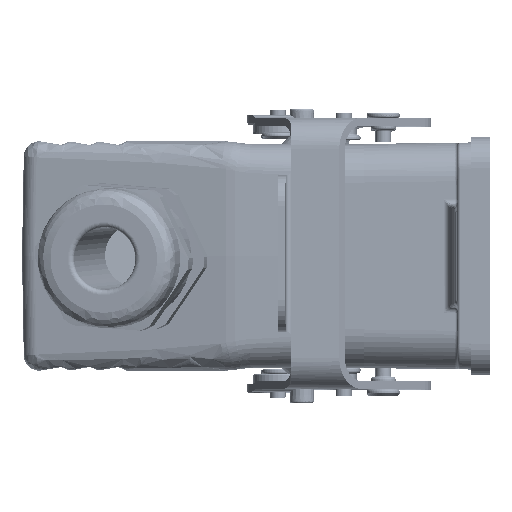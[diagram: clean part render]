
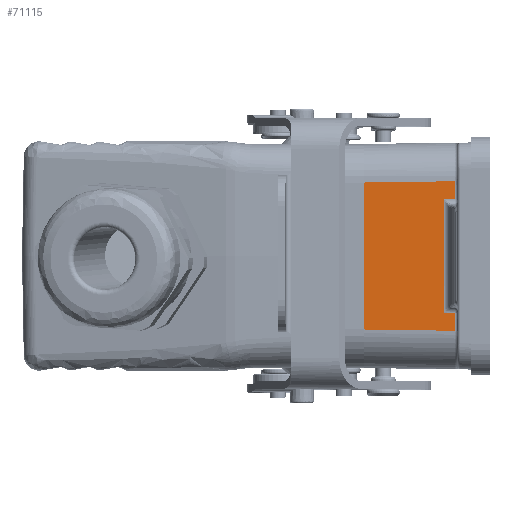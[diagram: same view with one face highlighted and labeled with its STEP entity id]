
A CAD part, left-side view. The second image highlights one B-rep face of the part: STEP entity #71115.
In plain terms, the highlighted planar face has unit normal (-1, 0.014, 0).
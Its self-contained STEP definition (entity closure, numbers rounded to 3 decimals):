
#181 = ORIENTED_EDGE ( 'NONE', *, *, #116980, .T. ) ;
#1588 = CARTESIAN_POINT ( 'NONE',  ( -36.994, 4.693, -23.758 ) ) ;
#4751 = CARTESIAN_POINT ( 'NONE',  ( -36.913, 10.529, -14.264 ) ) ;
#7800 = CARTESIAN_POINT ( 'NONE',  ( -36.913, 10.529, 14.264 ) ) ;
#8505 = DIRECTION ( 'NONE',  ( 0.014, 1., 0. ) ) ;
#14366 = FACE_OUTER_BOUND ( 'NONE', #195957, .T. ) ;
#15200 = DIRECTION ( 'NONE',  ( -0.014, -1., 0. ) ) ;
#16434 = VERTEX_POINT ( 'NONE', #217373 ) ;
#16585 = LINE ( 'NONE', #155463, #220656 ) ;
#16813 = ORIENTED_EDGE ( 'NONE', *, *, #152538, .T. ) ;
#17522 = EDGE_CURVE ( 'NONE', #187172, #136786, #112791, .T. ) ;
#19673 = ORIENTED_EDGE ( 'NONE', *, *, #149536, .F. ) ;
#19802 = VERTEX_POINT ( 'NONE', #72329 ) ;
#23316 = EDGE_CURVE ( 'NONE', #19802, #133798, #55380, .T. ) ;
#31302 = EDGE_CURVE ( 'NONE', #16434, #197333, #210623, .T. ) ;
#32098 = CARTESIAN_POINT ( 'NONE',  ( -36.994, 4.693, -10.869 ) ) ;
#42762 = CARTESIAN_POINT ( 'NONE',  ( -36.75, 22.2, -14.101 ) ) ;
#55380 = LINE ( 'NONE', #1588, #67584 ) ;
#56688 = CARTESIAN_POINT ( 'NONE',  ( -36.994, 4.693, 14.345 ) ) ;
#60729 = ORIENTED_EDGE ( 'NONE', *, *, #31302, .F. ) ;
#65892 = PLANE ( 'NONE',  #167944 ) ;
#67584 = VECTOR ( 'NONE', #89065, 1000. ) ;
#68392 = VERTEX_POINT ( 'NONE', #32098 ) ;
#70024 = LINE ( 'NONE', #188939, #201310 ) ;
#71115 = ADVANCED_FACE ( 'NONE', ( #14366 ), #65892, .T. ) ;
#71822 = VECTOR ( 'NONE', #91595, 1000. ) ;
#72329 = CARTESIAN_POINT ( 'NONE',  ( -36.994, 4.693, 10.869 ) ) ;
#72490 = CARTESIAN_POINT ( 'NONE',  ( -36.75, 22.2, -10.869 ) ) ;
#78250 = DIRECTION ( 'NONE',  ( -1., 0.014, 0. ) ) ;
#89065 = DIRECTION ( 'NONE',  ( 0., 0., 1. ) ) ;
#89601 = CARTESIAN_POINT ( 'NONE',  ( -36.75, 22.2, -14.101 ) ) ;
#91595 = DIRECTION ( 'NONE',  ( 0., 0., 1. ) ) ;
#94128 = CARTESIAN_POINT ( 'NONE',  ( -36.75, 22.2, 14.101 ) ) ;
#94894 = CARTESIAN_POINT ( 'NONE',  ( -36.964, 6.853, -23.758 ) ) ;
#96787 = CARTESIAN_POINT ( 'NONE',  ( -36.964, 6.853, -10.869 ) ) ;
#102561 = LINE ( 'NONE', #168761, #185128 ) ;
#109434 = LINE ( 'NONE', #72490, #166638 ) ;
#112791 = LINE ( 'NONE', #94894, #71822 ) ;
#116980 = EDGE_CURVE ( 'NONE', #136786, #19802, #102561, .T. ) ;
#120847 = EDGE_CURVE ( 'NONE', #216703, #133798, #184791, .T. ) ;
#132254 = CARTESIAN_POINT ( 'NONE',  ( -36.75, 22.2, 14.101 ) ) ;
#133798 = VERTEX_POINT ( 'NONE', #56688 ) ;
#136786 = VERTEX_POINT ( 'NONE', #165029 ) ;
#148139 = ORIENTED_EDGE ( 'NONE', *, *, #120847, .F. ) ;
#149536 = EDGE_CURVE ( 'NONE', #197333, #216703, #70024, .T. ) ;
#152538 = EDGE_CURVE ( 'NONE', #68392, #187172, #109434, .T. ) ;
#153281 = DIRECTION ( 'NONE',  ( 0., 0., 1. ) ) ;
#155463 = CARTESIAN_POINT ( 'NONE',  ( -36.994, 4.693, -23.758 ) ) ;
#162470 = CARTESIAN_POINT ( 'NONE',  ( -36.994, 4.693, 14.345 ) ) ;
#165029 = CARTESIAN_POINT ( 'NONE',  ( -36.964, 6.853, 10.869 ) ) ;
#166638 = VECTOR ( 'NONE', #8505, 1000. ) ;
#167731 = ORIENTED_EDGE ( 'NONE', *, *, #23316, .T. ) ;
#167944 = AXIS2_PLACEMENT_3D ( 'NONE', #180341, #78250, #188127 ) ;
#168761 = CARTESIAN_POINT ( 'NONE',  ( -36.75, 22.2, 10.869 ) ) ;
#180341 = CARTESIAN_POINT ( 'NONE',  ( -36.75, 22.2, -23.758 ) ) ;
#182670 = CARTESIAN_POINT ( 'NONE',  ( -36.831, 16.364, 14.182 ) ) ;
#184791 = B_SPLINE_CURVE_WITH_KNOTS ( 'NONE', 3,
 ( #94128, #182670, #7800, #162470 ),
 .UNSPECIFIED., .F., .F.,
 ( 4, 4 ),
 ( 0., 1. ),
 .UNSPECIFIED. ) ;
#185128 = VECTOR ( 'NONE', #15200, 1000. ) ;
#187172 = VERTEX_POINT ( 'NONE', #96787 ) ;
#188127 = DIRECTION ( 'NONE',  ( 0., 0., 1. ) ) ;
#188939 = CARTESIAN_POINT ( 'NONE',  ( -36.75, 22.2, 0. ) ) ;
#195957 = EDGE_LOOP ( 'NONE', ( #148139, #19673, #60729, #213426, #16813, #210904, #181, #167731 ) ) ;
#196456 = CARTESIAN_POINT ( 'NONE',  ( -36.831, 16.364, -14.182 ) ) ;
#197333 = VERTEX_POINT ( 'NONE', #89601 ) ;
#201310 = VECTOR ( 'NONE', #220394, 1000. ) ;
#202245 = EDGE_CURVE ( 'NONE', #16434, #68392, #16585, .T. ) ;
#209996 = CARTESIAN_POINT ( 'NONE',  ( -36.994, 4.693, -14.345 ) ) ;
#210623 = B_SPLINE_CURVE_WITH_KNOTS ( 'NONE', 3,
 ( #209996, #4751, #196456, #42762 ),
 .UNSPECIFIED., .F., .F.,
 ( 4, 4 ),
 ( 0., 1. ),
 .UNSPECIFIED. ) ;
#210904 = ORIENTED_EDGE ( 'NONE', *, *, #17522, .T. ) ;
#213426 = ORIENTED_EDGE ( 'NONE', *, *, #202245, .T. ) ;
#216703 = VERTEX_POINT ( 'NONE', #132254 ) ;
#217373 = CARTESIAN_POINT ( 'NONE',  ( -36.994, 4.693, -14.345 ) ) ;
#220394 = DIRECTION ( 'NONE',  ( 0., 0., 1. ) ) ;
#220656 = VECTOR ( 'NONE', #153281, 1000. ) ;
